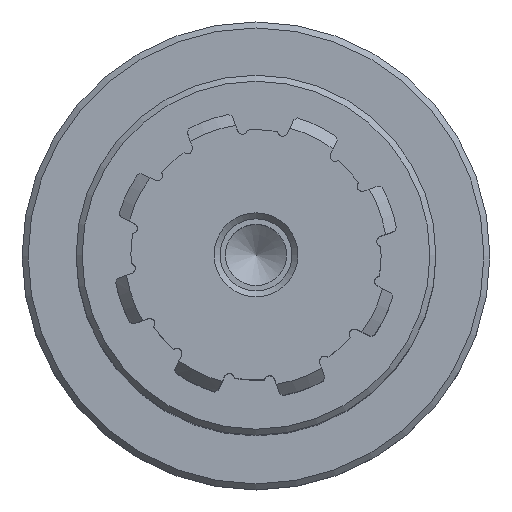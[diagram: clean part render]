
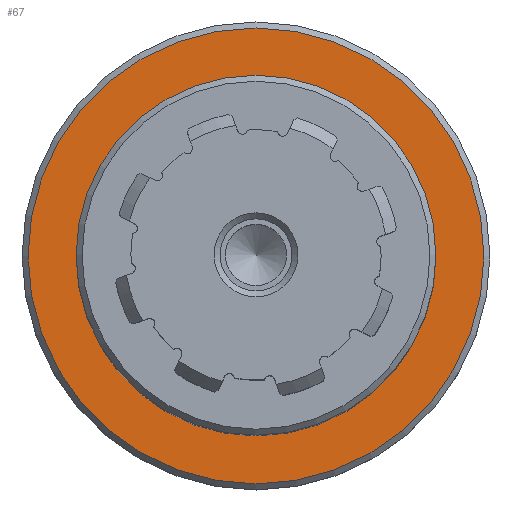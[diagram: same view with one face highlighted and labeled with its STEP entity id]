
A CAD part, top view. The second image highlights one B-rep face of the part: STEP entity #67.
In plain terms, the highlighted planar face has unit normal (0, 0, 1).
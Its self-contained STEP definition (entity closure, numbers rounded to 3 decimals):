
#67=ADVANCED_FACE('',(#209,#210),#211,.F.);
#209=FACE_OUTER_BOUND('',#442,.T.);
#210=FACE_BOUND('',#443,.T.);
#211=PLANE('',#444);
#442=EDGE_LOOP('',(#888));
#443=EDGE_LOOP('',(#889));
#444=AXIS2_PLACEMENT_3D('',#890,#891,#892);
#888=ORIENTED_EDGE('',*,*,#1683,.T.);
#889=ORIENTED_EDGE('',*,*,#1682,.T.);
#890=CARTESIAN_POINT('',(0.0,30.0,23.1));
#891=DIRECTION('',(-0.0,0.0,-1.0));
#892=DIRECTION('',(-1.0,0.0,0.0));
#1682=EDGE_CURVE('',#2126,#2126,#2127,.T.);
#1683=EDGE_CURVE('',#2128,#2128,#2129,.F.);
#2126=VERTEX_POINT('',#2683);
#2127=CIRCLE('',#2684,30.0);
#2128=VERTEX_POINT('',#2685);
#2129=CIRCLE('',#2686,38.0);
#2683=CARTESIAN_POINT('',(-30.0,0.0,23.1));
#2684=AXIS2_PLACEMENT_3D('',#3378,#3379,#3380);
#2685=CARTESIAN_POINT('',(-38.0,0.,23.1));
#2686=AXIS2_PLACEMENT_3D('',#3381,#3382,#3383);
#3378=CARTESIAN_POINT('',(0.0,0.0,23.1));
#3379=DIRECTION('',(-0.0,0.0,-1.0));
#3380=DIRECTION('',(-1.0,0.0,0.0));
#3381=CARTESIAN_POINT('',(0.0,0.0,23.1));
#3382=DIRECTION('',(-0.0,0.0,-1.0));
#3383=DIRECTION('',(-1.0,0.0,0.0));
